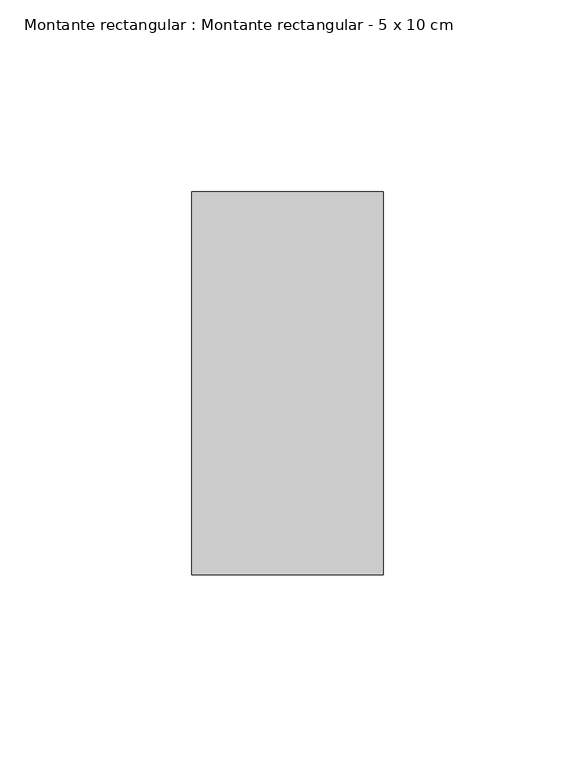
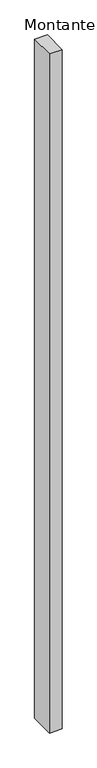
"""IFC4 building model written with IfcOpenShell, lengths in millimetres: member geometry, Montante rectangular : Montante rectangular - 5 x 10 cm."""

from ifc_helpers import new_model, si_unit, frame, origin, place, context, project, spatial, polyline, outline, extrude, source, transform, mapped, element, save


def montante_rectangular_montante_rectangular_5_x_10_cm_d18d0f95(model_context):
    return source(origin(), model_context, "Body", "SweptSolid", [
        extrude(outline(polyline([(-50.0, -50.0), (-50.0, 50.0), (0.0, 50.0), (0.0, -50.0), (-50.0, -50.0)])), frame((0.0, 0.0, -2820.0), z_axis=(0.0, 0.0, 1.0), x_axis=(1.0, 0.0, 0.0)), (0.0, 0.0, 1.0), 2820.0),
    ])


if __name__ == "__main__":
    model = new_model("IFC4")
    model_context = context("Model", 3, world=origin())
    ifc_project = project(units=[si_unit("LENGTHUNIT", "METRE", prefix="MILLI")], contexts=[model_context])
    site = spatial("IfcSite", under=ifc_project)
    building = spatial("IfcBuilding", under=site)
    placement = place(None, origin())
    montante_rectangular_montante_rectangular_5_x_10_cm_shape = montante_rectangular_montante_rectangular_5_x_10_cm_d18d0f95(model_context)
    element("IfcMember", 1, ObjectType="Montante rectangular : Montante rectangular - 5 x 10 cm", at=placement, inside=building, context=model_context, shape_type="MappedRepresentation", body=[
        mapped(montante_rectangular_montante_rectangular_5_x_10_cm_shape, transform((0.0, 0.0, 0.0), x_axis=(1.0, 0.0, 0.0), y_axis=(0.0, 1.0, 0.0), z_axis=(0.0, 0.0, 1.0))),
    ])
    save(model, "model.ifc")
